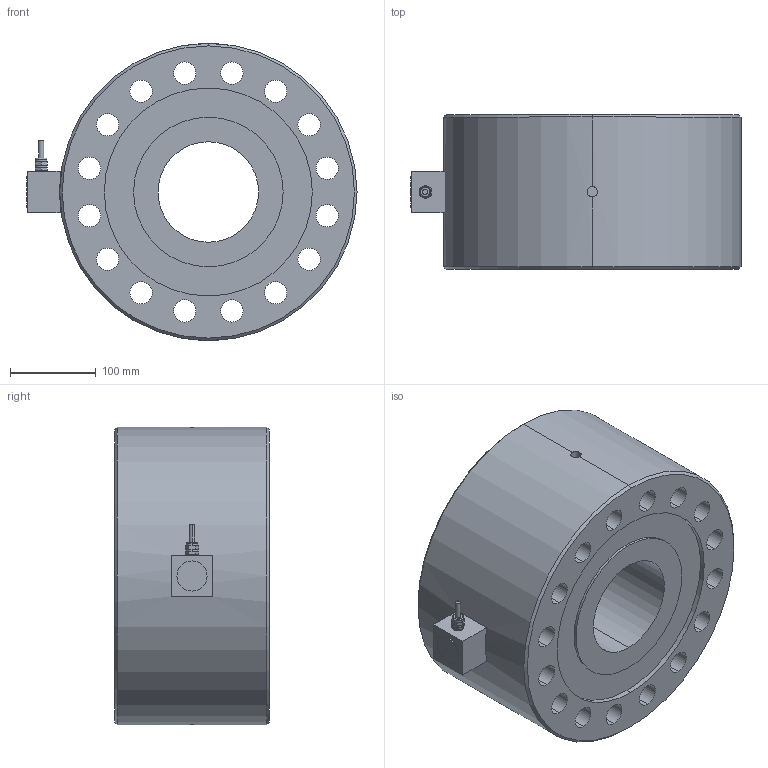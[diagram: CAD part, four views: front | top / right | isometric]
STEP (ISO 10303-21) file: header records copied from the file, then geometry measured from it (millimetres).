
FILE_DESCRIPTION (( 'STEP AP203' ), '1' );
FILE_NAME ('363YS-300t-YZ 3D耀倰.STEP', '2026-06-18T00:41:49', ( '' ), ( '' ), 'SwSTEP 2.0', 'SolidWorks 2024', '' );
FILE_SCHEMA (( 'CONFIG_CONTROL_DESIGN' ));
Length unit declared in the file: millimetre
Products named in the file (1): 363YS-300t-YZ  3D模型
Bounding box: 384 x 180 x 346 mm (x, y, z)
Volume: 13192263.6 mm3; surface area: 663127.7 mm2
Topology: 1 solids, 1 shells, 96 faces, 240 edges, 158 vertices
Faces by surface type: cylinder 58, plane 32, cone 4, torus 2
Entity records: 3217 total; most frequent: CARTESIAN_POINT 665, DIRECTION 548, ORIENTED_EDGE 480, EDGE_CURVE 240, AXIS2_PLACEMENT_3D 219, VERTEX_POINT 158, EDGE_LOOP 142, CIRCLE 122
